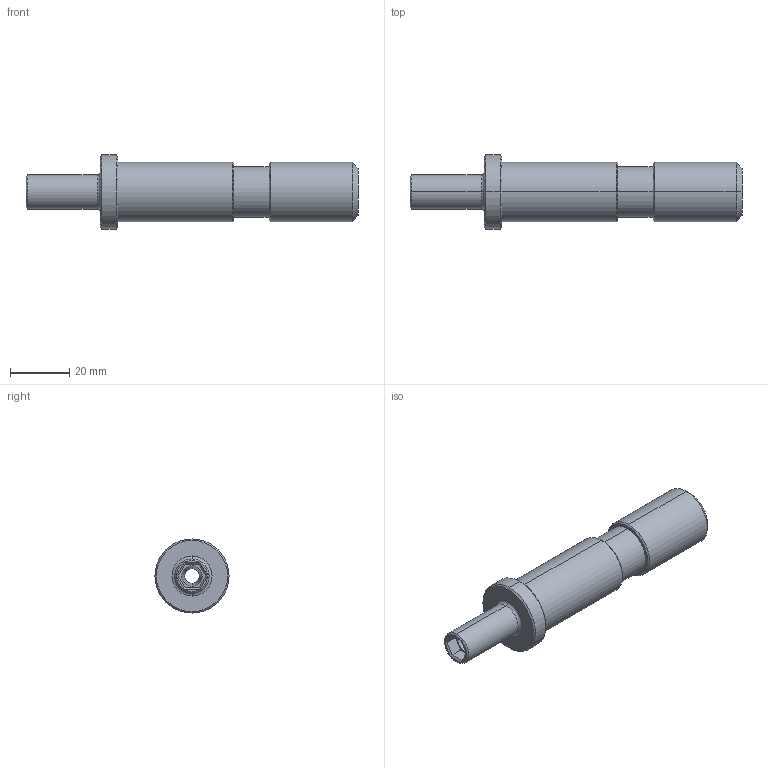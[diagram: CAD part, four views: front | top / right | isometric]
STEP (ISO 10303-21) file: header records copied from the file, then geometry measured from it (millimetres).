
FILE_DESCRIPTION (( 'STEP AP214' ), '1' );
FILE_NAME ('AGZ061.03.01_V1套筒.STEP', '2021-09-23T03:02:53', ( '微软中国' ), ( 'Microsoft' ), 'SwSTEP 2.0', 'SolidWorks 2017', '' );
FILE_SCHEMA (( 'AUTOMOTIVE_DESIGN' ));
Length unit declared in the file: millimetre
Products named in the file (1): AGZ061.03.01_V1杶芠
Bounding box: 112 x 25 x 25 mm (x, y, z)
Volume: 27084.9 mm3; surface area: 9149.8 mm2
Topology: 1 solids, 1 shells, 51 faces, 106 edges, 62 vertices
Faces by surface type: plane 19, cone 16, cylinder 14, torus 2
Entity records: 1376 total; most frequent: DIRECTION 256, CARTESIAN_POINT 220, ORIENTED_EDGE 212, EDGE_CURVE 106, AXIS2_PLACEMENT_3D 98, VERTEX_POINT 62, VECTOR 60, LINE 60
